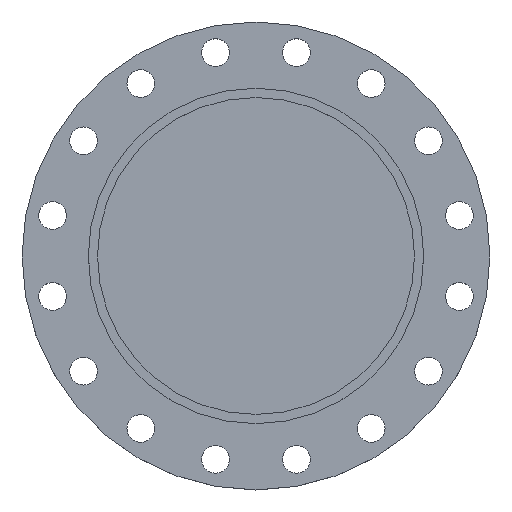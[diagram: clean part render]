
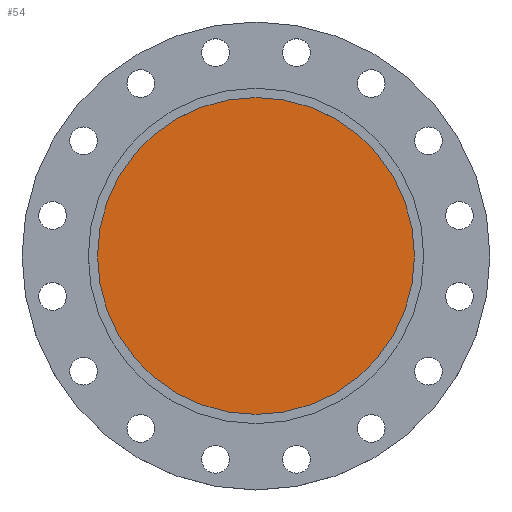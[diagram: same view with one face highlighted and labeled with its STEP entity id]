
A CAD part, top view. The second image highlights one B-rep face of the part: STEP entity #54.
In plain terms, the highlighted planar face has unit normal (0, 0, 1).
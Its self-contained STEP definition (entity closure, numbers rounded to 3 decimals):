
#54 = ADVANCED_FACE ( 'NONE', ( #543 ), #438, .T. ) ;
#151 = EDGE_LOOP ( 'NONE', ( #1055, #1045 ) ) ;
#204 = AXIS2_PLACEMENT_3D ( 'NONE', #1562, #1500, #1354 ) ;
#210 = EDGE_CURVE ( 'NONE', #1585, #1530, #505, .T. ) ;
#438 = PLANE ( 'NONE',  #204 ) ;
#505 = CIRCLE ( 'NONE', #506, 223.5 ) ;
#506 = AXIS2_PLACEMENT_3D ( 'NONE', #1038, #1037, #1036 ) ;
#543 = FACE_OUTER_BOUND ( 'NONE', #151, .T. ) ;
#571 = CARTESIAN_POINT ( 'NONE',  ( -223.5, 0., -5.5 ) ) ;
#660 = CARTESIAN_POINT ( 'NONE',  ( 223.5, 0., -5.5 ) ) ;
#720 = DIRECTION ( 'NONE',  ( -1., 0., 0. ) ) ;
#721 = DIRECTION ( 'NONE',  ( 0., 0., -1. ) ) ;
#723 = CARTESIAN_POINT ( 'NONE',  ( 0., 0., -5.5 ) ) ;
#940 = AXIS2_PLACEMENT_3D ( 'NONE', #723, #721, #720 ) ;
#1022 = CIRCLE ( 'NONE', #940, 223.5 ) ;
#1036 = DIRECTION ( 'NONE',  ( -1., 0., 0. ) ) ;
#1037 = DIRECTION ( 'NONE',  ( 0., 0., -1. ) ) ;
#1038 = CARTESIAN_POINT ( 'NONE',  ( 0., 0., -5.5 ) ) ;
#1045 = ORIENTED_EDGE ( 'NONE', *, *, #1489, .F. ) ;
#1055 = ORIENTED_EDGE ( 'NONE', *, *, #210, .F. ) ;
#1354 = DIRECTION ( 'NONE',  ( 1., 0., 0. ) ) ;
#1489 = EDGE_CURVE ( 'NONE', #1530, #1585, #1022, .T. ) ;
#1500 = DIRECTION ( 'NONE',  ( 0., 0., 1. ) ) ;
#1530 = VERTEX_POINT ( 'NONE', #660 ) ;
#1562 = CARTESIAN_POINT ( 'NONE',  ( 223.5, 0., -5.5 ) ) ;
#1585 = VERTEX_POINT ( 'NONE', #571 ) ;
